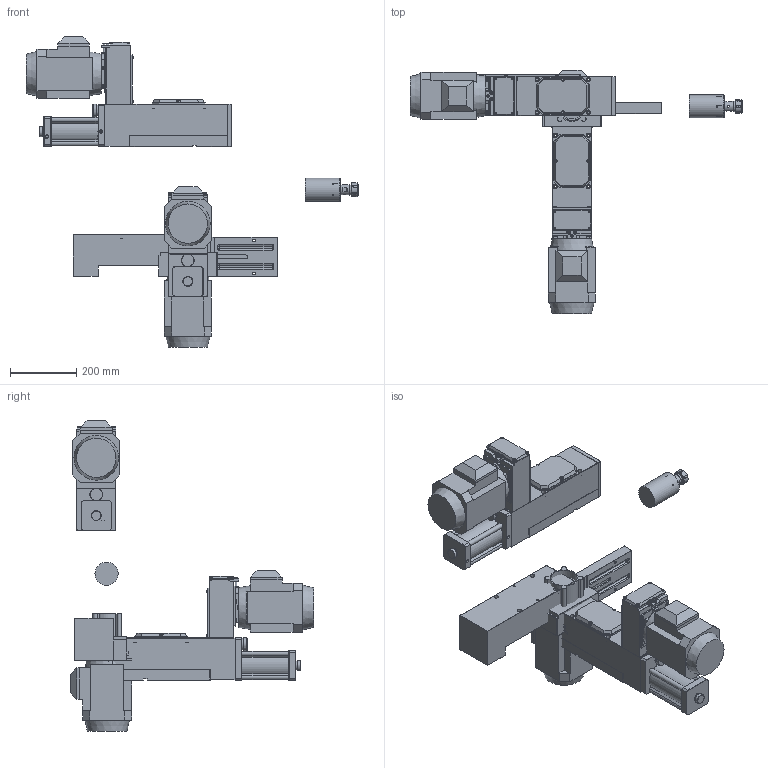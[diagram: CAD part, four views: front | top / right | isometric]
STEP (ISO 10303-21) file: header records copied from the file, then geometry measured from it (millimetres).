
FILE_DESCRIPTION( ( 'STEP AP203' ), '1' );
FILE_NAME( 'C:/Documents and Settings/Saverio/Desktop/disegni ironcad/unità serie 1/F 114/F 114_ER25_P.stp', '2013-12-10T14:47:55', ( ' ' ), ( ' ' ), 'XStep 1.0', ' ', ' ' );
FILE_SCHEMA( ( 'CONFIG_CONTROL_DESIGN' ) );
Length unit declared in the file: metre
Products named in the file (41): Assem1; Assem2; Assem3; 1; 2; 3; 4; 5; 6; 7; 8; 9; 10; 11; 12; 13; 14; 15; 16; 17; 18; 19; 20; 21; 22; 23; 24; 25; 26; 27; 28; 29; 30; 31; 32; 33; 34; 35; 36; 37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
Bounding box: 1004.39 x 737.2 x 939.13 mm (x, y, z)
Volume: 31369262.5 mm3; surface area: 3062918 mm2
Topology: 114 solids, 117 shells, 2655 faces, 5979 edges, 3675 vertices
Faces by surface type: plane 1719, cylinder 474, cone 366, sphere 60, bspline 24, torus 12
Full cylindrical faces by diameter (mm): 4.5 x12, 5 x33, 5.5 x15, 6 x30, 6.5 x6, 6.9 x12, 8.385 x3, 8.5 x24, 9.87 x12, 10.25 x6, 13.5 x12, 18 x12, 20 x3, 20.5 x3, 27.5 x3, 30 x12, 30.5 x3, 36 x3, 39 x3, 42 x3, 47 x3, 52 x6, 52.5 x3, 54 x6, 54.4 x3, 70 x3, 71 x3, 80 x15
Entity records: 26333 total; most frequent: CARTESIAN_POINT 5591, DIRECTION 3961, ORIENTED_EDGE 3530, EDGE_CURVE 1765, AXIS2_PLACEMENT_3D 1417, VERTEX_POINT 1197, EDGE_LOOP 1180, LINE 1127
